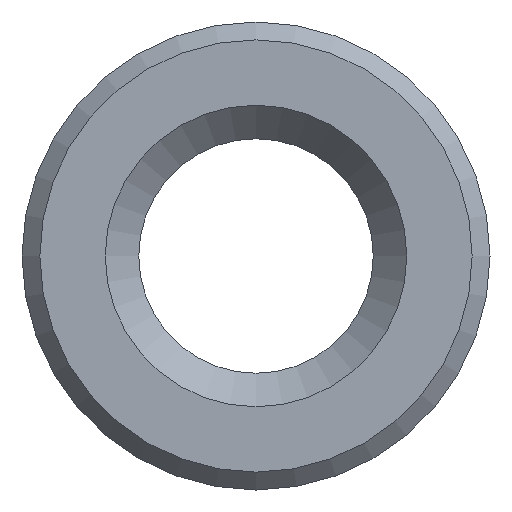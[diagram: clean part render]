
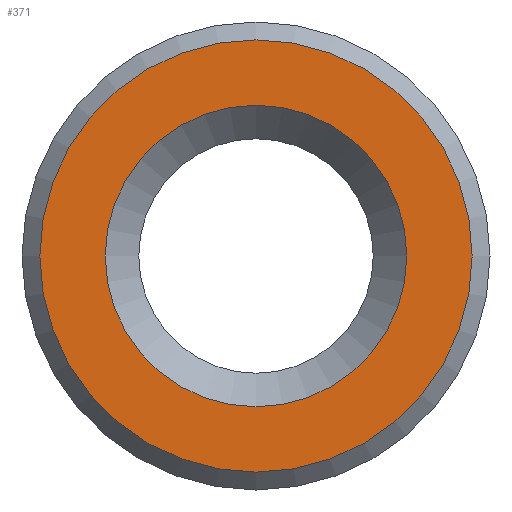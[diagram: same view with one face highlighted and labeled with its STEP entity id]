
A CAD part, left-side view. The second image highlights one B-rep face of the part: STEP entity #371.
In plain terms, the highlighted planar face has unit normal (-1, 0, 0).
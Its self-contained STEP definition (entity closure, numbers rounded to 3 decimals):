
#23=FACE_BOUND('',#68,.T.);
#27=PLANE('',#417);
#46=FACE_OUTER_BOUND('',#67,.T.);
#67=EDGE_LOOP('',(#266));
#68=EDGE_LOOP('',(#267,#268));
#142=CIRCLE('',#413,19.355);
#145=CIRCLE('',#418,13.5);
#146=CIRCLE('',#419,13.5);
#164=VERTEX_POINT('',#572);
#167=VERTEX_POINT('',#582);
#168=VERTEX_POINT('',#583);
#203=EDGE_CURVE('',#164,#164,#142,.T.);
#207=EDGE_CURVE('',#167,#168,#145,.T.);
#208=EDGE_CURVE('',#168,#167,#146,.T.);
#266=ORIENTED_EDGE('',*,*,#203,.F.);
#267=ORIENTED_EDGE('',*,*,#207,.T.);
#268=ORIENTED_EDGE('',*,*,#208,.T.);
#371=ADVANCED_FACE('',(#46,#23),#27,.T.);
#413=AXIS2_PLACEMENT_3D('',#574,#462,#463);
#417=AXIS2_PLACEMENT_3D('',#581,#471,#472);
#418=AXIS2_PLACEMENT_3D('',#584,#473,#474);
#419=AXIS2_PLACEMENT_3D('',#585,#475,#476);
#462=DIRECTION('center_axis',(1.,0.,0.));
#463=DIRECTION('ref_axis',(0.,-1.,0.));
#471=DIRECTION('center_axis',(-1.,0.,0.));
#472=DIRECTION('ref_axis',(0.,0.,1.));
#473=DIRECTION('center_axis',(1.,0.,0.));
#474=DIRECTION('ref_axis',(0.,1.,0.));
#475=DIRECTION('center_axis',(1.,0.,0.));
#476=DIRECTION('ref_axis',(0.,1.,0.));
#572=CARTESIAN_POINT('',(0.,19.355,0.));
#574=CARTESIAN_POINT('Origin',(0.,0.,0.));
#581=CARTESIAN_POINT('Origin',(0.,17.228,0.));
#582=CARTESIAN_POINT('',(0.,13.5,0.));
#583=CARTESIAN_POINT('',(0.,-13.5,0.));
#584=CARTESIAN_POINT('Origin',(0.,0.,0.));
#585=CARTESIAN_POINT('Origin',(0.,0.,0.));
